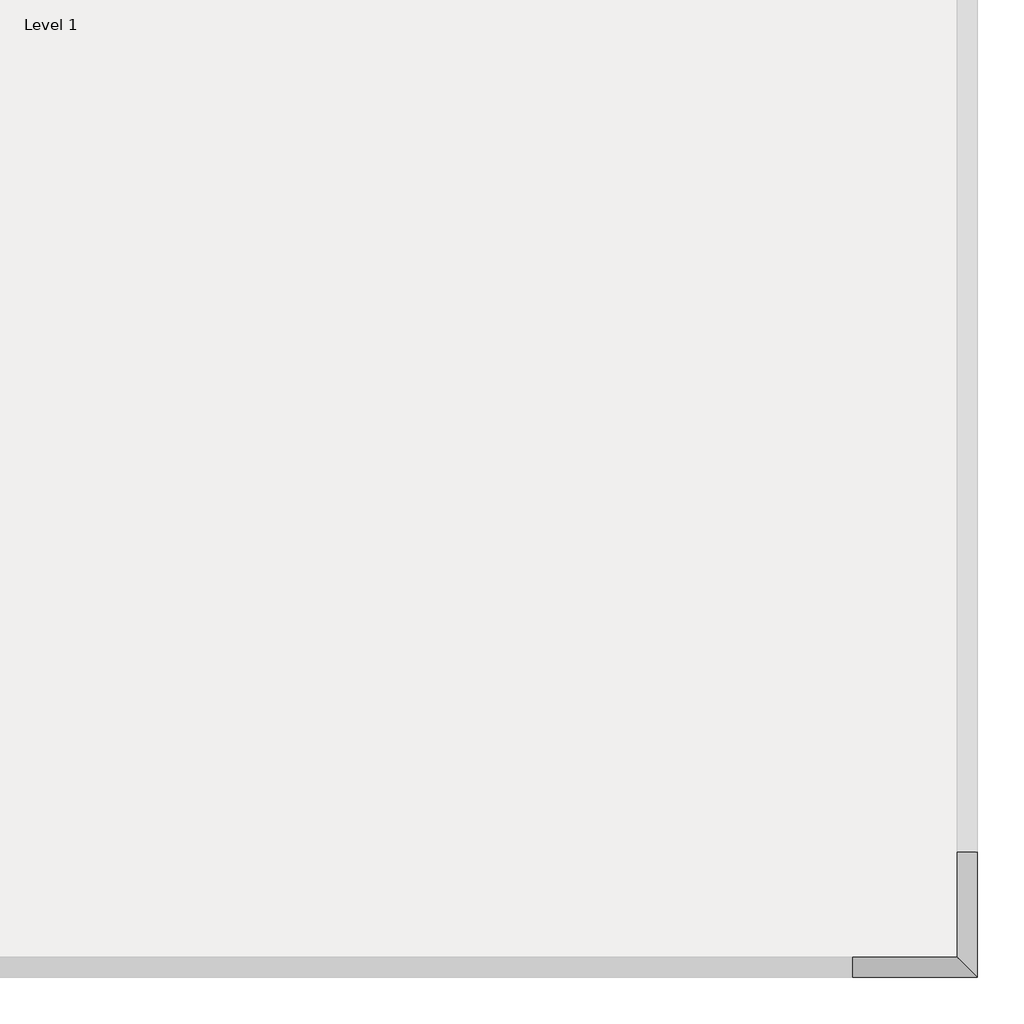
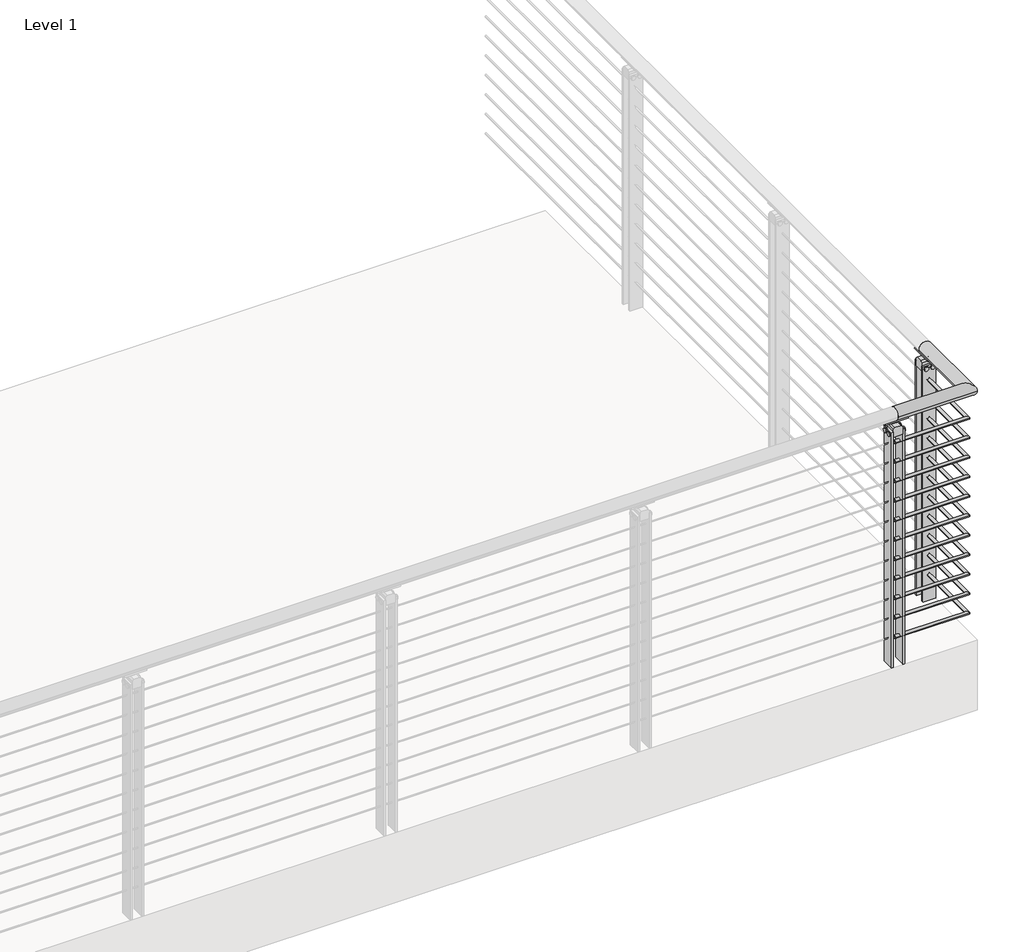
# One storey, part 18 of 36: 1 railing.
"""IFC4 building model written with IfcOpenShell, lengths in millimetres."""

from ifc_helpers import new_model, si_unit, point, frame, frame_2d, origin, origin_with_axes, place, context, project, spatial, polyline, circle_curve, ellipse_curve, trimmed, segment, composite_curve, outline, extrude, element, save
from ifc_brep_helpers import plane_surface, cylinder_surface, revolved_surface, advanced_brep

model = new_model("IFC4")

# Units and contexts
model_context = context("Model", 3, world=origin())
ifc_project = project(units=[si_unit("LENGTHUNIT", "METRE", prefix="MILLI")], contexts=[model_context])

# Site, building, storey
site = spatial("IfcSite", under=ifc_project)
building = spatial("IfcBuilding", under=site)
storey = spatial("IfcBuildingStorey", under=building, Name="Level 1", Elevation=0.0)

# Railing
placement = place(None, origin())
element("IfcRailing", 1, ObjectType="VIVA-BLADE-Cable-Weld Mount-Corner", at=placement, inside=storey, context=model_context, shape_type="SolidModel", body=[
    advanced_brep(
    [(45029.2855247, -57184.4334719, 1054.1), (45029.2855247, -57133.6334719, 1054.1), (45346.7855247, -57184.4334719, 1054.1), (45295.9855247, -57133.6334719, 1054.1), (45346.7855247, -56866.9334719, 1054.1), (45295.9855247, -56866.9334719, 1054.1)],
    [
        (0, 1, circle_curve(frame((45029.2855247, -57159.0334719, 1054.1), z_axis=(-1.0, 0.0, 0.0), x_axis=(0.0, 1.0, 0.0)), 25.4)),
        (1, 0, circle_curve(frame((45029.2855247, -57159.0334719, 1054.1), z_axis=(-1.0, 0.0, 0.0), x_axis=(0.0, 1.0, 0.0)), 25.4)),
        (0, 2),
        (2, 3, ellipse_curve(frame((45321.3855247, -57159.0334719, 1054.1), z_axis=(-0.7071067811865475, -0.7071067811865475, 0.0), x_axis=(-0.7071067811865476, 0.7071067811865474, 0.0)), 35.9210245, 25.4)),
        (3, 1),
        (3, 2, ellipse_curve(frame((45321.3855247, -57159.0334719, 1054.1), z_axis=(-0.7071067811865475, -0.7071067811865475, 0.0), x_axis=(-0.7071067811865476, 0.7071067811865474, 0.0)), 35.9210245, 25.4)),
        (4, 5, circle_curve(frame((45321.3855247, -56866.9334719, 1054.1), z_axis=(0.0, 1.0, 0.0), x_axis=(-1.0, 0.0, 0.0)), 25.4)),
        (5, 4, circle_curve(frame((45321.3855247, -56866.9334719, 1054.1), z_axis=(0.0, 1.0, 0.0), x_axis=(-1.0, 0.0, 0.0)), 25.4)),
        (2, 4),
        (5, 3),
    ],
    [
        plane_surface(frame((45029.2855247, -57159.0334719, 1079.5), z_axis=(-1.0, 0.0, 0.0), x_axis=(0.0, 1.0, 0.0))),
        cylinder_surface(frame((45029.2855247, -57159.0334719, 1054.1), z_axis=(-1.0, 0.0, 0.0), x_axis=(0.0, 1.0, 0.0)), 25.4),
        plane_surface(frame((45321.3855247, -56866.9334719, 1079.5), z_axis=(0.0, 1.0, 0.0), x_axis=(0.0, 0.0, 1.0))),
        cylinder_surface(frame((45321.3855247, -57159.0334719, 1054.1), z_axis=(0.0, -1.0, 0.0), x_axis=(-1.0, 0.0, 0.0)), 25.4),
    ],
    [
        (0, [[1, 2]]),
        (1, [[-1, 3, 4, 5]]),
        (1, [[-2, -5, 6, -3]]),
        (2, [[7, 8]]),
        (3, [[-4, 9, -8, 10]]),
        (3, [[-6, -10, -7, -9]]),
    ],
),
    advanced_brep(
    [(45029.2855247, -57152.6834719, 933.45), (45029.2855247, -57165.3834719, 933.45), (45315.0355247, -57152.6834719, 933.45), (45327.7355247, -57165.3834719, 933.45), (45315.0355247, -56866.9334719, 933.45), (45327.7355247, -56866.9334719, 933.45)],
    [
        (0, 1, circle_curve(frame((45029.2855247, -57159.0334719, 933.45), z_axis=(-1.0, 0.0, 0.0), x_axis=(0.0, -1.0, 0.0)), 6.35)),
        (1, 0, circle_curve(frame((45029.2855247, -57159.0334719, 933.45), z_axis=(-1.0, 0.0, 0.0), x_axis=(0.0, -1.0, 0.0)), 6.35)),
        (0, 2),
        (2, 3, ellipse_curve(frame((45321.3855247, -57159.0334719, 933.45), z_axis=(-0.7071067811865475, -0.7071067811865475, 0.0), x_axis=(-0.7071067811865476, 0.7071067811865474, 0.0)), 8.9802561, 6.35)),
        (3, 1),
        (3, 2, ellipse_curve(frame((45321.3855247, -57159.0334719, 933.45), z_axis=(-0.7071067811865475, -0.7071067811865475, 0.0), x_axis=(-0.7071067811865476, 0.7071067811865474, 0.0)), 8.9802561, 6.35)),
        (4, 5, circle_curve(frame((45321.3855247, -56866.9334719, 933.45), z_axis=(0.0, 1.0, 0.0), x_axis=(1.0, 0.0, 0.0)), 6.35)),
        (5, 4, circle_curve(frame((45321.3855247, -56866.9334719, 933.45), z_axis=(0.0, 1.0, 0.0), x_axis=(1.0, 0.0, 0.0)), 6.35)),
        (2, 4),
        (5, 3),
    ],
    [
        plane_surface(frame((45029.2855247, -57159.0334719, 939.8), z_axis=(-1.0, 0.0, 0.0), x_axis=(0.0, 1.0, 0.0))),
        cylinder_surface(frame((45029.2855247, -57159.0334719, 933.45), z_axis=(-1.0, 0.0, 0.0), x_axis=(0.0, -1.0, 0.0)), 6.35),
        plane_surface(frame((45321.3855247, -56866.9334719, 939.8), z_axis=(0.0, 1.0, 0.0), x_axis=(0.0, 0.0, 1.0))),
        cylinder_surface(frame((45321.3855247, -57159.0334719, 933.45), z_axis=(0.0, -1.0, 0.0), x_axis=(1.0, 0.0, 0.0)), 6.35),
    ],
    [
        (0, [[1, 2]]),
        (1, [[-1, 3, 4, 5]]),
        (1, [[-2, -5, 6, -3]]),
        (2, [[7, 8]]),
        (3, [[-4, 9, -8, 10]]),
        (3, [[-6, -10, -7, -9]]),
    ],
),
    advanced_brep(
    [(45029.2855247, -57152.6834719, 850.9), (45029.2855247, -57165.3834719, 850.9), (45315.0355247, -57152.6834719, 850.9), (45327.7355247, -57165.3834719, 850.9), (45315.0355247, -56866.9334719, 850.9), (45327.7355247, -56866.9334719, 850.9)],
    [
        (0, 1, circle_curve(frame((45029.2855247, -57159.0334719, 850.9), z_axis=(-1.0, 0.0, 0.0), x_axis=(0.0, -1.0, 0.0)), 6.35)),
        (1, 0, circle_curve(frame((45029.2855247, -57159.0334719, 850.9), z_axis=(-1.0, 0.0, 0.0), x_axis=(0.0, -1.0, 0.0)), 6.35)),
        (0, 2),
        (2, 3, ellipse_curve(frame((45321.3855247, -57159.0334719, 850.9), z_axis=(-0.7071067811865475, -0.7071067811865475, 0.0), x_axis=(-0.7071067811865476, 0.7071067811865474, 0.0)), 8.9802561, 6.35)),
        (3, 1),
        (3, 2, ellipse_curve(frame((45321.3855247, -57159.0334719, 850.9), z_axis=(-0.7071067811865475, -0.7071067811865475, 0.0), x_axis=(-0.7071067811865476, 0.7071067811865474, 0.0)), 8.9802561, 6.35)),
        (4, 5, circle_curve(frame((45321.3855247, -56866.9334719, 850.9), z_axis=(0.0, 1.0, 0.0), x_axis=(1.0, 0.0, 0.0)), 6.35)),
        (5, 4, circle_curve(frame((45321.3855247, -56866.9334719, 850.9), z_axis=(0.0, 1.0, 0.0), x_axis=(1.0, 0.0, 0.0)), 6.35)),
        (2, 4),
        (5, 3),
    ],
    [
        plane_surface(frame((45029.2855247, -57159.0334719, 857.25), z_axis=(-1.0, 0.0, 0.0), x_axis=(0.0, 1.0, 0.0))),
        cylinder_surface(frame((45029.2855247, -57159.0334719, 850.9), z_axis=(-1.0, 0.0, 0.0), x_axis=(0.0, -1.0, 0.0)), 6.35),
        plane_surface(frame((45321.3855247, -56866.9334719, 857.25), z_axis=(0.0, 1.0, 0.0), x_axis=(0.0, 0.0, 1.0))),
        cylinder_surface(frame((45321.3855247, -57159.0334719, 850.9), z_axis=(0.0, -1.0, 0.0), x_axis=(1.0, 0.0, 0.0)), 6.35),
    ],
    [
        (0, [[1, 2]]),
        (1, [[-1, 3, 4, 5]]),
        (1, [[-2, -5, 6, -3]]),
        (2, [[7, 8]]),
        (3, [[-4, 9, -8, 10]]),
        (3, [[-6, -10, -7, -9]]),
    ],
),
    advanced_brep(
    [(45029.2855247, -57152.6834719, 768.35), (45029.2855247, -57165.3834719, 768.35), (45315.0355247, -57152.6834719, 768.35), (45327.7355247, -57165.3834719, 768.35), (45315.0355247, -56866.9334719, 768.35), (45327.7355247, -56866.9334719, 768.35)],
    [
        (0, 1, circle_curve(frame((45029.2855247, -57159.0334719, 768.35), z_axis=(-1.0, 0.0, 0.0), x_axis=(0.0, -1.0, 0.0)), 6.35)),
        (1, 0, circle_curve(frame((45029.2855247, -57159.0334719, 768.35), z_axis=(-1.0, 0.0, 0.0), x_axis=(0.0, -1.0, 0.0)), 6.35)),
        (0, 2),
        (2, 3, ellipse_curve(frame((45321.3855247, -57159.0334719, 768.35), z_axis=(-0.7071067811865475, -0.7071067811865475, 0.0), x_axis=(-0.7071067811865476, 0.7071067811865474, 0.0)), 8.9802561, 6.35)),
        (3, 1),
        (3, 2, ellipse_curve(frame((45321.3855247, -57159.0334719, 768.35), z_axis=(-0.7071067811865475, -0.7071067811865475, 0.0), x_axis=(-0.7071067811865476, 0.7071067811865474, 0.0)), 8.9802561, 6.35)),
        (4, 5, circle_curve(frame((45321.3855247, -56866.9334719, 768.35), z_axis=(0.0, 1.0, 0.0), x_axis=(1.0, 0.0, 0.0)), 6.35)),
        (5, 4, circle_curve(frame((45321.3855247, -56866.9334719, 768.35), z_axis=(0.0, 1.0, 0.0), x_axis=(1.0, 0.0, 0.0)), 6.35)),
        (2, 4),
        (5, 3),
    ],
    [
        plane_surface(frame((45029.2855247, -57159.0334719, 774.7), z_axis=(-1.0, 0.0, 0.0), x_axis=(0.0, 1.0, 0.0))),
        cylinder_surface(frame((45029.2855247, -57159.0334719, 768.35), z_axis=(-1.0, 0.0, 0.0), x_axis=(0.0, -1.0, 0.0)), 6.35),
        plane_surface(frame((45321.3855247, -56866.9334719, 774.7), z_axis=(0.0, 1.0, 0.0), x_axis=(0.0, 0.0, 1.0))),
        cylinder_surface(frame((45321.3855247, -57159.0334719, 768.35), z_axis=(0.0, -1.0, 0.0), x_axis=(1.0, 0.0, 0.0)), 6.35),
    ],
    [
        (0, [[1, 2]]),
        (1, [[-1, 3, 4, 5]]),
        (1, [[-2, -5, 6, -3]]),
        (2, [[7, 8]]),
        (3, [[-4, 9, -8, 10]]),
        (3, [[-6, -10, -7, -9]]),
    ],
),
    advanced_brep(
    [(45029.2855247, -57152.6834719, 685.8), (45029.2855247, -57165.3834719, 685.8), (45315.0355247, -57152.6834719, 685.8), (45327.7355247, -57165.3834719, 685.8), (45315.0355247, -56866.9334719, 685.8), (45327.7355247, -56866.9334719, 685.8)],
    [
        (0, 1, circle_curve(frame((45029.2855247, -57159.0334719, 685.8), z_axis=(-1.0, 0.0, 0.0), x_axis=(0.0, -1.0, 0.0)), 6.35)),
        (1, 0, circle_curve(frame((45029.2855247, -57159.0334719, 685.8), z_axis=(-1.0, 0.0, 0.0), x_axis=(0.0, -1.0, 0.0)), 6.35)),
        (0, 2),
        (2, 3, ellipse_curve(frame((45321.3855247, -57159.0334719, 685.8), z_axis=(-0.7071067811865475, -0.7071067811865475, 0.0), x_axis=(-0.7071067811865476, 0.7071067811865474, 0.0)), 8.9802561, 6.35)),
        (3, 1),
        (3, 2, ellipse_curve(frame((45321.3855247, -57159.0334719, 685.8), z_axis=(-0.7071067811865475, -0.7071067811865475, 0.0), x_axis=(-0.7071067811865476, 0.7071067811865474, 0.0)), 8.9802561, 6.35)),
        (4, 5, circle_curve(frame((45321.3855247, -56866.9334719, 685.8), z_axis=(0.0, 1.0, 0.0), x_axis=(1.0, 0.0, 0.0)), 6.35)),
        (5, 4, circle_curve(frame((45321.3855247, -56866.9334719, 685.8), z_axis=(0.0, 1.0, 0.0), x_axis=(1.0, 0.0, 0.0)), 6.35)),
        (2, 4),
        (5, 3),
    ],
    [
        plane_surface(frame((45029.2855247, -57159.0334719, 692.15), z_axis=(-1.0, 0.0, 0.0), x_axis=(0.0, 1.0, 0.0))),
        cylinder_surface(frame((45029.2855247, -57159.0334719, 685.8), z_axis=(-1.0, 0.0, 0.0), x_axis=(0.0, -1.0, 0.0)), 6.35),
        plane_surface(frame((45321.3855247, -56866.9334719, 692.15), z_axis=(0.0, 1.0, 0.0), x_axis=(0.0, 0.0, 1.0))),
        cylinder_surface(frame((45321.3855247, -57159.0334719, 685.8), z_axis=(0.0, -1.0, 0.0), x_axis=(1.0, 0.0, 0.0)), 6.35),
    ],
    [
        (0, [[1, 2]]),
        (1, [[-1, 3, 4, 5]]),
        (1, [[-2, -5, 6, -3]]),
        (2, [[7, 8]]),
        (3, [[-4, 9, -8, 10]]),
        (3, [[-6, -10, -7, -9]]),
    ],
),
    advanced_brep(
    [(45029.2855247, -57152.6834719, 603.25), (45029.2855247, -57165.3834719, 603.25), (45315.0355247, -57152.6834719, 603.25), (45327.7355247, -57165.3834719, 603.25), (45315.0355247, -56866.9334719, 603.25), (45327.7355247, -56866.9334719, 603.25)],
    [
        (0, 1, circle_curve(frame((45029.2855247, -57159.0334719, 603.25), z_axis=(-1.0, 0.0, 0.0), x_axis=(0.0, -1.0, 0.0)), 6.35)),
        (1, 0, circle_curve(frame((45029.2855247, -57159.0334719, 603.25), z_axis=(-1.0, 0.0, 0.0), x_axis=(0.0, -1.0, 0.0)), 6.35)),
        (0, 2),
        (2, 3, ellipse_curve(frame((45321.3855247, -57159.0334719, 603.25), z_axis=(-0.7071067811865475, -0.7071067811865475, 0.0), x_axis=(-0.7071067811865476, 0.7071067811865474, 0.0)), 8.9802561, 6.35)),
        (3, 1),
        (3, 2, ellipse_curve(frame((45321.3855247, -57159.0334719, 603.25), z_axis=(-0.7071067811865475, -0.7071067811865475, 0.0), x_axis=(-0.7071067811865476, 0.7071067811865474, 0.0)), 8.9802561, 6.35)),
        (4, 5, circle_curve(frame((45321.3855247, -56866.9334719, 603.25), z_axis=(0.0, 1.0, 0.0), x_axis=(1.0, 0.0, 0.0)), 6.35)),
        (5, 4, circle_curve(frame((45321.3855247, -56866.9334719, 603.25), z_axis=(0.0, 1.0, 0.0), x_axis=(1.0, 0.0, 0.0)), 6.35)),
        (2, 4),
        (5, 3),
    ],
    [
        plane_surface(frame((45029.2855247, -57159.0334719, 609.6), z_axis=(-1.0, 0.0, 0.0), x_axis=(0.0, 1.0, 0.0))),
        cylinder_surface(frame((45029.2855247, -57159.0334719, 603.25), z_axis=(-1.0, 0.0, 0.0), x_axis=(0.0, -1.0, 0.0)), 6.35),
        plane_surface(frame((45321.3855247, -56866.9334719, 609.6), z_axis=(0.0, 1.0, 0.0), x_axis=(0.0, 0.0, 1.0))),
        cylinder_surface(frame((45321.3855247, -57159.0334719, 603.25), z_axis=(0.0, -1.0, 0.0), x_axis=(1.0, 0.0, 0.0)), 6.35),
    ],
    [
        (0, [[1, 2]]),
        (1, [[-1, 3, 4, 5]]),
        (1, [[-2, -5, 6, -3]]),
        (2, [[7, 8]]),
        (3, [[-4, 9, -8, 10]]),
        (3, [[-6, -10, -7, -9]]),
    ],
),
    advanced_brep(
    [(45029.2855247, -57152.6834719, 520.7), (45029.2855247, -57165.3834719, 520.7), (45315.0355247, -57152.6834719, 520.7), (45327.7355247, -57165.3834719, 520.7), (45315.0355247, -56866.9334719, 520.7), (45327.7355247, -56866.9334719, 520.7)],
    [
        (0, 1, circle_curve(frame((45029.2855247, -57159.0334719, 520.7), z_axis=(-1.0, 0.0, 0.0), x_axis=(0.0, -1.0, 0.0)), 6.35)),
        (1, 0, circle_curve(frame((45029.2855247, -57159.0334719, 520.7), z_axis=(-1.0, 0.0, 0.0), x_axis=(0.0, -1.0, 0.0)), 6.35)),
        (0, 2),
        (2, 3, ellipse_curve(frame((45321.3855247, -57159.0334719, 520.7), z_axis=(-0.7071067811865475, -0.7071067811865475, 0.0), x_axis=(-0.7071067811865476, 0.7071067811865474, 0.0)), 8.9802561, 6.35)),
        (3, 1),
        (3, 2, ellipse_curve(frame((45321.3855247, -57159.0334719, 520.7), z_axis=(-0.7071067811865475, -0.7071067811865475, 0.0), x_axis=(-0.7071067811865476, 0.7071067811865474, 0.0)), 8.9802561, 6.35)),
        (4, 5, circle_curve(frame((45321.3855247, -56866.9334719, 520.7), z_axis=(0.0, 1.0, 0.0), x_axis=(1.0, 0.0, 0.0)), 6.35)),
        (5, 4, circle_curve(frame((45321.3855247, -56866.9334719, 520.7), z_axis=(0.0, 1.0, 0.0), x_axis=(1.0, 0.0, 0.0)), 6.35)),
        (2, 4),
        (5, 3),
    ],
    [
        plane_surface(frame((45029.2855247, -57159.0334719, 527.05), z_axis=(-1.0, 0.0, 0.0), x_axis=(0.0, 1.0, 0.0))),
        cylinder_surface(frame((45029.2855247, -57159.0334719, 520.7), z_axis=(-1.0, 0.0, 0.0), x_axis=(0.0, -1.0, 0.0)), 6.35),
        plane_surface(frame((45321.3855247, -56866.9334719, 527.05), z_axis=(0.0, 1.0, 0.0), x_axis=(0.0, 0.0, 1.0))),
        cylinder_surface(frame((45321.3855247, -57159.0334719, 520.7), z_axis=(0.0, -1.0, 0.0), x_axis=(1.0, 0.0, 0.0)), 6.35),
    ],
    [
        (0, [[1, 2]]),
        (1, [[-1, 3, 4, 5]]),
        (1, [[-2, -5, 6, -3]]),
        (2, [[7, 8]]),
        (3, [[-4, 9, -8, 10]]),
        (3, [[-6, -10, -7, -9]]),
    ],
),
    advanced_brep(
    [(45029.2855247, -57152.6834719, 438.15), (45029.2855247, -57165.3834719, 438.15), (45315.0355247, -57152.6834719, 438.15), (45327.7355247, -57165.3834719, 438.15), (45315.0355247, -56866.9334719, 438.15), (45327.7355247, -56866.9334719, 438.15)],
    [
        (0, 1, circle_curve(frame((45029.2855247, -57159.0334719, 438.15), z_axis=(-1.0, 0.0, 0.0), x_axis=(0.0, -1.0, 0.0)), 6.35)),
        (1, 0, circle_curve(frame((45029.2855247, -57159.0334719, 438.15), z_axis=(-1.0, 0.0, 0.0), x_axis=(0.0, -1.0, 0.0)), 6.35)),
        (0, 2),
        (2, 3, ellipse_curve(frame((45321.3855247, -57159.0334719, 438.15), z_axis=(-0.7071067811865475, -0.7071067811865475, 0.0), x_axis=(-0.7071067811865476, 0.7071067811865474, 0.0)), 8.9802561, 6.35)),
        (3, 1),
        (3, 2, ellipse_curve(frame((45321.3855247, -57159.0334719, 438.15), z_axis=(-0.7071067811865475, -0.7071067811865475, 0.0), x_axis=(-0.7071067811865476, 0.7071067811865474, 0.0)), 8.9802561, 6.35)),
        (4, 5, circle_curve(frame((45321.3855247, -56866.9334719, 438.15), z_axis=(0.0, 1.0, 0.0), x_axis=(1.0, 0.0, 0.0)), 6.35)),
        (5, 4, circle_curve(frame((45321.3855247, -56866.9334719, 438.15), z_axis=(0.0, 1.0, 0.0), x_axis=(1.0, 0.0, 0.0)), 6.35)),
        (2, 4),
        (5, 3),
    ],
    [
        plane_surface(frame((45029.2855247, -57159.0334719, 444.5), z_axis=(-1.0, 0.0, 0.0), x_axis=(0.0, 1.0, 0.0))),
        cylinder_surface(frame((45029.2855247, -57159.0334719, 438.15), z_axis=(-1.0, 0.0, 0.0), x_axis=(0.0, -1.0, 0.0)), 6.35),
        plane_surface(frame((45321.3855247, -56866.9334719, 444.5), z_axis=(0.0, 1.0, 0.0), x_axis=(0.0, 0.0, 1.0))),
        cylinder_surface(frame((45321.3855247, -57159.0334719, 438.15), z_axis=(0.0, -1.0, 0.0), x_axis=(1.0, 0.0, 0.0)), 6.35),
    ],
    [
        (0, [[1, 2]]),
        (1, [[-1, 3, 4, 5]]),
        (1, [[-2, -5, 6, -3]]),
        (2, [[7, 8]]),
        (3, [[-4, 9, -8, 10]]),
        (3, [[-6, -10, -7, -9]]),
    ],
),
    advanced_brep(
    [(45029.2855247, -57152.6834719, 355.6), (45029.2855247, -57165.3834719, 355.6), (45315.0355247, -57152.6834719, 355.6), (45327.7355247, -57165.3834719, 355.6), (45315.0355247, -56866.9334719, 355.6), (45327.7355247, -56866.9334719, 355.6)],
    [
        (0, 1, circle_curve(frame((45029.2855247, -57159.0334719, 355.6), z_axis=(-1.0, 0.0, 0.0), x_axis=(0.0, -1.0, 0.0)), 6.35)),
        (1, 0, circle_curve(frame((45029.2855247, -57159.0334719, 355.6), z_axis=(-1.0, 0.0, 0.0), x_axis=(0.0, -1.0, 0.0)), 6.35)),
        (0, 2),
        (2, 3, ellipse_curve(frame((45321.3855247, -57159.0334719, 355.6), z_axis=(-0.7071067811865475, -0.7071067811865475, 0.0), x_axis=(-0.7071067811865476, 0.7071067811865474, 0.0)), 8.9802561, 6.35)),
        (3, 1),
        (3, 2, ellipse_curve(frame((45321.3855247, -57159.0334719, 355.6), z_axis=(-0.7071067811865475, -0.7071067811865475, 0.0), x_axis=(-0.7071067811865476, 0.7071067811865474, 0.0)), 8.9802561, 6.35)),
        (4, 5, circle_curve(frame((45321.3855247, -56866.9334719, 355.6), z_axis=(0.0, 1.0, 0.0), x_axis=(1.0, 0.0, 0.0)), 6.35)),
        (5, 4, circle_curve(frame((45321.3855247, -56866.9334719, 355.6), z_axis=(0.0, 1.0, 0.0), x_axis=(1.0, 0.0, 0.0)), 6.35)),
        (2, 4),
        (5, 3),
    ],
    [
        plane_surface(frame((45029.2855247, -57159.0334719, 361.95), z_axis=(-1.0, 0.0, 0.0), x_axis=(0.0, 1.0, 0.0))),
        cylinder_surface(frame((45029.2855247, -57159.0334719, 355.6), z_axis=(-1.0, 0.0, 0.0), x_axis=(0.0, -1.0, 0.0)), 6.35),
        plane_surface(frame((45321.3855247, -56866.9334719, 361.95), z_axis=(0.0, 1.0, 0.0), x_axis=(0.0, 0.0, 1.0))),
        cylinder_surface(frame((45321.3855247, -57159.0334719, 355.6), z_axis=(0.0, -1.0, 0.0), x_axis=(1.0, 0.0, 0.0)), 6.35),
    ],
    [
        (0, [[1, 2]]),
        (1, [[-1, 3, 4, 5]]),
        (1, [[-2, -5, 6, -3]]),
        (2, [[7, 8]]),
        (3, [[-4, 9, -8, 10]]),
        (3, [[-6, -10, -7, -9]]),
    ],
),
    advanced_brep(
    [(45029.2855247, -57152.6834719, 273.05), (45029.2855247, -57165.3834719, 273.05), (45315.0355247, -57152.6834719, 273.05), (45327.7355247, -57165.3834719, 273.05), (45315.0355247, -56866.9334719, 273.05), (45327.7355247, -56866.9334719, 273.05)],
    [
        (0, 1, circle_curve(frame((45029.2855247, -57159.0334719, 273.05), z_axis=(-1.0, 0.0, 0.0), x_axis=(0.0, -1.0, 0.0)), 6.35)),
        (1, 0, circle_curve(frame((45029.2855247, -57159.0334719, 273.05), z_axis=(-1.0, 0.0, 0.0), x_axis=(0.0, -1.0, 0.0)), 6.35)),
        (0, 2),
        (2, 3, ellipse_curve(frame((45321.3855247, -57159.0334719, 273.05), z_axis=(-0.7071067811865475, -0.7071067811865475, 0.0), x_axis=(-0.7071067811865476, 0.7071067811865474, 0.0)), 8.9802561, 6.35)),
        (3, 1),
        (3, 2, ellipse_curve(frame((45321.3855247, -57159.0334719, 273.05), z_axis=(-0.7071067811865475, -0.7071067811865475, 0.0), x_axis=(-0.7071067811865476, 0.7071067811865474, 0.0)), 8.9802561, 6.35)),
        (4, 5, circle_curve(frame((45321.3855247, -56866.9334719, 273.05), z_axis=(0.0, 1.0, 0.0), x_axis=(1.0, 0.0, 0.0)), 6.35)),
        (5, 4, circle_curve(frame((45321.3855247, -56866.9334719, 273.05), z_axis=(0.0, 1.0, 0.0), x_axis=(1.0, 0.0, 0.0)), 6.35)),
        (2, 4),
        (5, 3),
    ],
    [
        plane_surface(frame((45029.2855247, -57159.0334719, 279.4), z_axis=(-1.0, 0.0, 0.0), x_axis=(0.0, 1.0, 0.0))),
        cylinder_surface(frame((45029.2855247, -57159.0334719, 273.05), z_axis=(-1.0, 0.0, 0.0), x_axis=(0.0, -1.0, 0.0)), 6.35),
        plane_surface(frame((45321.3855247, -56866.9334719, 279.4), z_axis=(0.0, 1.0, 0.0), x_axis=(0.0, 0.0, 1.0))),
        cylinder_surface(frame((45321.3855247, -57159.0334719, 273.05), z_axis=(0.0, -1.0, 0.0), x_axis=(1.0, 0.0, 0.0)), 6.35),
    ],
    [
        (0, [[1, 2]]),
        (1, [[-1, 3, 4, 5]]),
        (1, [[-2, -5, 6, -3]]),
        (2, [[7, 8]]),
        (3, [[-4, 9, -8, 10]]),
        (3, [[-6, -10, -7, -9]]),
    ],
),
    advanced_brep(
    [(45029.2855247, -57152.6834719, 190.5), (45029.2855247, -57165.3834719, 190.5), (45315.0355247, -57152.6834719, 190.5), (45327.7355247, -57165.3834719, 190.5), (45315.0355247, -56866.9334719, 190.5), (45327.7355247, -56866.9334719, 190.5)],
    [
        (0, 1, circle_curve(frame((45029.2855247, -57159.0334719, 190.5), z_axis=(-1.0, 0.0, 0.0), x_axis=(0.0, -1.0, 0.0)), 6.35)),
        (1, 0, circle_curve(frame((45029.2855247, -57159.0334719, 190.5), z_axis=(-1.0, 0.0, 0.0), x_axis=(0.0, -1.0, 0.0)), 6.35)),
        (0, 2),
        (2, 3, ellipse_curve(frame((45321.3855247, -57159.0334719, 190.5), z_axis=(-0.7071067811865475, -0.7071067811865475, 0.0), x_axis=(-0.7071067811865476, 0.7071067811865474, 0.0)), 8.9802561, 6.35)),
        (3, 1),
        (3, 2, ellipse_curve(frame((45321.3855247, -57159.0334719, 190.5), z_axis=(-0.7071067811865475, -0.7071067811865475, 0.0), x_axis=(-0.7071067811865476, 0.7071067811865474, 0.0)), 8.9802561, 6.35)),
        (4, 5, circle_curve(frame((45321.3855247, -56866.9334719, 190.5), z_axis=(0.0, 1.0, 0.0), x_axis=(1.0, 0.0, 0.0)), 6.35)),
        (5, 4, circle_curve(frame((45321.3855247, -56866.9334719, 190.5), z_axis=(0.0, 1.0, 0.0), x_axis=(1.0, 0.0, 0.0)), 6.35)),
        (2, 4),
        (5, 3),
    ],
    [
        plane_surface(frame((45029.2855247, -57159.0334719, 196.85), z_axis=(-1.0, 0.0, 0.0), x_axis=(0.0, 1.0, 0.0))),
        cylinder_surface(frame((45029.2855247, -57159.0334719, 190.5), z_axis=(-1.0, 0.0, 0.0), x_axis=(0.0, -1.0, 0.0)), 6.35),
        plane_surface(frame((45321.3855247, -56866.9334719, 196.85), z_axis=(0.0, 1.0, 0.0), x_axis=(0.0, 0.0, 1.0))),
        cylinder_surface(frame((45321.3855247, -57159.0334719, 190.5), z_axis=(0.0, -1.0, 0.0), x_axis=(1.0, 0.0, 0.0)), 6.35),
    ],
    [
        (0, [[1, 2]]),
        (1, [[-1, 3, 4, 5]]),
        (1, [[-2, -5, 6, -3]]),
        (2, [[7, 8]]),
        (3, [[-4, 9, -8, 10]]),
        (3, [[-6, -10, -7, -9]]),
    ],
),
    advanced_brep(
    [(45029.2855247, -57152.6834719, 107.95), (45029.2855247, -57165.3834719, 107.95), (45315.0355247, -57152.6834719, 107.95), (45327.7355247, -57165.3834719, 107.95), (45315.0355247, -56866.9334719, 107.95), (45327.7355247, -56866.9334719, 107.95)],
    [
        (0, 1, circle_curve(frame((45029.2855247, -57159.0334719, 107.95), z_axis=(-1.0, 0.0, 0.0), x_axis=(0.0, -1.0, 0.0)), 6.35)),
        (1, 0, circle_curve(frame((45029.2855247, -57159.0334719, 107.95), z_axis=(-1.0, 0.0, 0.0), x_axis=(0.0, -1.0, 0.0)), 6.35)),
        (0, 2),
        (2, 3, ellipse_curve(frame((45321.3855247, -57159.0334719, 107.95), z_axis=(-0.7071067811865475, -0.7071067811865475, 0.0), x_axis=(-0.7071067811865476, 0.7071067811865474, 0.0)), 8.9802561, 6.35)),
        (3, 1),
        (3, 2, ellipse_curve(frame((45321.3855247, -57159.0334719, 107.95), z_axis=(-0.7071067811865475, -0.7071067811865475, 0.0), x_axis=(-0.7071067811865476, 0.7071067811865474, 0.0)), 8.9802561, 6.35)),
        (4, 5, circle_curve(frame((45321.3855247, -56866.9334719, 107.95), z_axis=(0.0, 1.0, 0.0), x_axis=(1.0, 0.0, 0.0)), 6.35)),
        (5, 4, circle_curve(frame((45321.3855247, -56866.9334719, 107.95), z_axis=(0.0, 1.0, 0.0), x_axis=(1.0, 0.0, 0.0)), 6.35)),
        (2, 4),
        (5, 3),
    ],
    [
        plane_surface(frame((45029.2855247, -57159.0334719, 114.3), z_axis=(-1.0, 0.0, 0.0), x_axis=(0.0, 1.0, 0.0))),
        cylinder_surface(frame((45029.2855247, -57159.0334719, 107.95), z_axis=(-1.0, 0.0, 0.0), x_axis=(0.0, -1.0, 0.0)), 6.35),
        plane_surface(frame((45321.3855247, -56866.9334719, 114.3), z_axis=(0.0, 1.0, 0.0), x_axis=(0.0, 0.0, 1.0))),
        cylinder_surface(frame((45321.3855247, -57159.0334719, 107.95), z_axis=(0.0, -1.0, 0.0), x_axis=(1.0, 0.0, 0.0)), 6.35),
    ],
    [
        (0, [[1, 2]]),
        (1, [[-1, 3, 4, 5]]),
        (1, [[-2, -5, 6, -3]]),
        (2, [[7, 8]]),
        (3, [[-4, 9, -8, 10]]),
        (3, [[-6, -10, -7, -9]]),
    ],
),
    advanced_brep(
    [(45308.6254011, -56821.6960719, 1032.0967655), (45333.4974656, -56821.6960719, 1031.9535285), (45336.3063959, -56821.6960719, 1027.1267745), (45304.7895037, -56821.6960719, 1027.707533), (45308.6254011, -56912.1708719, 1032.0967655), (45304.7895037, -56912.1708719, 1027.707533), (45336.4201893, -56912.1708719, 1027.1893964), (45333.5844377, -56912.1708719, 1032.0018447)],
    [
        (0, 1, circle_curve(frame((45321.189204, -56821.6960719, 1054.2115898), z_axis=(0.0, -1.0, 0.0), x_axis=(-1.0, 0.0, 0.0)), 25.4345159)),
        (1, 2, circle_curve(frame((45334.8290908, -56821.6960719, 1029.4993599), z_axis=(0.0, 1.0, 0.0), x_axis=(-1.0, 0.0, 0.0)), 2.7949225)),
        (2, 3, circle_curve(frame((45321.0557409, -56821.6960719, 1054.9742164), z_axis=(0.0, 1.0, 0.0), x_axis=(-1.0, 0.0, 0.0)), 31.75)),
        (3, 0, circle_curve(frame((45307.0778434, -56821.6960719, 1029.5784521), z_axis=(0.0, 1.0, 0.0), x_axis=(-1.0, 0.0, 0.0)), 2.9558141)),
        (4, 5, circle_curve(frame((45307.0778434, -56912.1708719, 1029.5784521), z_axis=(0.0, -1.0, 0.0), x_axis=(-1.0, 0.0, 0.0)), 2.9558141)),
        (5, 6, circle_curve(frame((45321.0557409, -56912.1708719, 1054.9742164), z_axis=(0.0, -1.0, 0.0), x_axis=(-1.0, 0.0, 0.0)), 31.75)),
        (6, 7, circle_curve(frame((45334.8290908, -56912.1708719, 1029.4993599), z_axis=(0.0, -1.0, 0.0), x_axis=(-1.0, 0.0, 0.0)), 2.7949225)),
        (7, 4, circle_curve(frame((45321.189204, -56912.1708719, 1054.2115898), z_axis=(0.0, 1.0, 0.0), x_axis=(-1.0, 0.0, 0.0)), 25.4345159)),
        (0, 4),
        (7, 1),
        (6, 2),
        (5, 3),
    ],
    [
        plane_surface(frame((45295.7546881, -56821.6960719, 1054.2115898), z_axis=(0.0, 1.0, 0.0), x_axis=(0.0, 0.0, -1.0))),
        plane_surface(frame((45295.7546881, -56912.1708719, 1054.2115898), z_axis=(0.0, -1.0, 0.0), x_axis=(0.0, 0.0, 1.0))),
        revolved_surface(polyline([(45295.7546881, -56912.1708719, 1054.2115898), (45295.7546881, -56821.6960719, 1054.2115898)]), (45321.189204, -56912.1708719, 1054.2115898), (0.0, -1.0, 0.0)),
        cylinder_surface(frame((45334.8290908, -56912.1708719, 1029.4993599), z_axis=(0.0, 1.0, 0.0), x_axis=(-1.0, 0.0, 0.0)), 2.7949225),
        cylinder_surface(frame((45321.0557409, -56912.1708719, 1054.9742164), z_axis=(0.0, 1.0, 0.0), x_axis=(-1.0, 0.0, 0.0)), 31.75),
        cylinder_surface(frame((45307.0778434, -56912.1708719, 1029.5784521), z_axis=(0.0, 1.0, 0.0), x_axis=(-1.0, 0.0, 0.0)), 2.9558141),
    ],
    [
        (0, [[1, 2, 3, 4]]),
        (1, [[5, 6, 7, 8]]),
        (2, [[-1, 9, -8, 10]]),
        (3, [[-2, -10, -7, 11]]),
        (4, [[-3, -11, -6, 12]]),
        (5, [[-4, -12, -5, -9]]),
    ],
),
    advanced_brep(
    [(45318.8455247, -56854.2334719, 1014.4125), (45318.8455247, -56879.6334719, 1014.4125), (45318.8455247, -56894.0013867, 1028.7804149), (45318.8455247, -56839.865557, 1028.7804149), (45323.9255247, -56854.2334719, 1014.4125), (45323.9255247, -56839.865557, 1028.7804149), (45323.9255247, -56894.0013867, 1028.7804149), (45323.9255247, -56879.6334719, 1014.4125)],
    [
        (0, 1),
        (1, 2, circle_curve(frame((45318.8455247, -56894.0013867, 1014.4125), z_axis=(1.0, 0.0, 0.0), x_axis=(0.0, -1.0, 0.0)), 14.3679149)),
        (2, 3),
        (3, 0, circle_curve(frame((45318.8455247, -56839.865557, 1014.4125), z_axis=(1.0, 0.0, 0.0), x_axis=(0.0, -1.0, 0.0)), 14.3679149)),
        (4, 5, circle_curve(frame((45323.9255247, -56839.865557, 1014.4125), z_axis=(-1.0, 0.0, 0.0), x_axis=(0.0, -1.0, 0.0)), 14.3679149)),
        (5, 6),
        (6, 7, circle_curve(frame((45323.9255247, -56894.0013867, 1014.4125), z_axis=(-1.0, 0.0, 0.0), x_axis=(0.0, -1.0, 0.0)), 14.3679149)),
        (7, 4),
        (0, 4),
        (7, 1),
        (6, 2),
        (5, 3),
    ],
    [
        plane_surface(frame((45318.8455247, -56879.6334719, 1014.4125), z_axis=(-1.0, 0.0, 0.0), x_axis=(0.0, -1.0, 0.0))),
        plane_surface(frame((45323.9255247, -56879.6334719, 1014.4125), z_axis=(1.0, 0.0, 0.0), x_axis=(0.0, 1.0, 0.0))),
        plane_surface(frame((45318.8455247, -56854.2334719, 1014.4125), z_axis=(0.0, 0.0, -1.0), x_axis=(1.0, 0.0, 0.0))),
        revolved_surface(polyline([(45323.9255247, -56908.3693016, 1014.4125), (45318.8455247, -56908.3693016, 1014.4125)]), (45323.9255247, -56894.0013867, 1014.4125), (1.0, 0.0, 0.0)),
        plane_surface(frame((45318.8455247, -56894.0013867, 1028.7804149), z_axis=(0.0, 0.0, 1.0), x_axis=(1.0, 0.0, 0.0))),
        revolved_surface(polyline([(45323.9255247, -56854.2334719, 1014.4125), (45318.8455247, -56854.2334719, 1014.4125)]), (45323.9255247, -56839.865557, 1014.4125), (1.0, 0.0, 0.0)),
    ],
    [
        (0, [[1, 2, 3, 4]]),
        (1, [[5, 6, 7, 8]]),
        (2, [[-1, 9, -8, 10]]),
        (3, [[-2, -10, -7, 11]]),
        (4, [[-3, -11, -6, 12]]),
        (5, [[-4, -12, -5, -9]]),
    ],
),
    extrude(outline(polyline([(45295.985728, -56894.0083075), (45295.985728, -56885.9834719), (45346.7880526, -56885.9834719), (45346.7880526, -56894.0083075), (45295.985728, -56894.0083075)])), origin_with_axes(), (0.0, 0.0, 1.0), 996.95),
    extrude(outline(composite_curve([segment(trimmed(circle_curve(frame_2d((986.0416929, 45334.0880016)), 8.89), [point((986.0416929, 45342.9780016))], [point((986.0416929, 45325.1980016))], False, "CARTESIAN"), True, "CONTINUOUS"), segment(trimmed(circle_curve(frame_2d((986.0416929, 45334.0880016)), 8.89), [point((986.0416929, 45325.1980016))], [point((986.0416929, 45342.9780016))], False, "CARTESIAN"), True, "CONTINUOUS")], self_intersect=False)), frame((0.0, -56898.6834719, 0.0), z_axis=(0.0, 1.0, 0.0), x_axis=(0.0, 0.0, 1.0)), (0.0, 0.0, 1.0), 63.4880631),
    extrude(outline(composite_curve([segment(trimmed(circle_curve(frame_2d((986.0416929, 45308.6881037)), 8.89), [point((986.0416929, 45317.5781037))], [point((986.0416929, 45299.7981037))], False, "CARTESIAN"), True, "CONTINUOUS"), segment(trimmed(circle_curve(frame_2d((986.0416929, 45308.6881037)), 8.89), [point((986.0416929, 45299.7981037))], [point((986.0416929, 45317.5781037))], False, "CARTESIAN"), True, "CONTINUOUS")], self_intersect=False)), frame((0.0, -56898.6834719, 0.0), z_axis=(0.0, 1.0, 0.0), x_axis=(0.0, 0.0, 1.0)), (0.0, 0.0, 1.0), 63.4880631),
    extrude(outline(polyline([(-56885.9834719, 974.7123), (-56885.9834719, 1008.0625), (-56879.6334719, 1014.4125), (-56854.2334719, 1014.4125), (-56847.8834719, 1008.0625), (-56847.8834719, 974.7123), (-56885.9834719, 974.7123)])), frame((45295.9855247, 0.0, 0.0), z_axis=(1.0, 0.0, 0.0), x_axis=(0.0, 1.0, 0.0)), (0.0, 0.0, 1.0), 50.8025279),
    extrude(outline(polyline([(45295.985728, -56847.8835099), (45295.985728, -56839.8825099), (45346.7880526, -56839.8825099), (45346.7880526, -56847.8835099), (45295.985728, -56847.8835099)])), origin_with_axes(), (0.0, 0.0, 1.0), 996.95),
    advanced_brep(
    [(45074.5229247, -57146.2733482, 1032.0967655), (45074.5229247, -57171.1454127, 1031.9535285), (45074.5229247, -57173.9543431, 1027.1267745), (45074.5229247, -57142.4374508, 1027.707533), (44984.0481247, -57146.2733482, 1032.0967655), (44984.0481247, -57142.4374508, 1027.707533), (44984.0481247, -57174.0681364, 1027.1893964), (44984.0481247, -57171.2323849, 1032.0018447)],
    [
        (0, 1, circle_curve(frame((45074.5229247, -57158.8371511, 1054.2115898), z_axis=(-1.0, 0.0, 0.0), x_axis=(0.0, 1.0, 0.0)), 25.4345159)),
        (1, 2, circle_curve(frame((45074.5229247, -57172.477038, 1029.4993599), z_axis=(1.0, 0.0, 0.0), x_axis=(0.0, 1.0, 0.0)), 2.7949225)),
        (2, 3, circle_curve(frame((45074.5229247, -57158.703688, 1054.9742164), z_axis=(1.0, 0.0, 0.0), x_axis=(0.0, 1.0, 0.0)), 31.75)),
        (3, 0, circle_curve(frame((45074.5229247, -57144.7257905, 1029.5784521), z_axis=(1.0, 0.0, 0.0), x_axis=(0.0, 1.0, 0.0)), 2.9558141)),
        (4, 5, circle_curve(frame((44984.0481247, -57144.7257905, 1029.5784521), z_axis=(-1.0, 0.0, 0.0), x_axis=(0.0, 1.0, 0.0)), 2.9558141)),
        (5, 6, circle_curve(frame((44984.0481247, -57158.703688, 1054.9742164), z_axis=(-1.0, 0.0, 0.0), x_axis=(0.0, 1.0, 0.0)), 31.75)),
        (6, 7, circle_curve(frame((44984.0481247, -57172.477038, 1029.4993599), z_axis=(-1.0, 0.0, 0.0), x_axis=(0.0, 1.0, 0.0)), 2.7949225)),
        (7, 4, circle_curve(frame((44984.0481247, -57158.8371511, 1054.2115898), z_axis=(1.0, 0.0, 0.0), x_axis=(0.0, 1.0, 0.0)), 25.4345159)),
        (0, 4),
        (7, 1),
        (6, 2),
        (5, 3),
    ],
    [
        plane_surface(frame((45074.5229247, -57133.4026353, 1054.2115898), z_axis=(1.0, 0.0, 0.0), x_axis=(0.0, 0.0, -1.0))),
        plane_surface(frame((44984.0481247, -57133.4026353, 1054.2115898), z_axis=(-1.0, 0.0, 0.0), x_axis=(0.0, 0.0, 1.0))),
        revolved_surface(polyline([(44984.0481247, -57133.4026352, 1054.2115898), (45074.5229247, -57133.4026352, 1054.2115898)]), (44984.0481247, -57158.8371511, 1054.2115898), (-1.0, 0.0, 0.0)),
        cylinder_surface(frame((44984.0481247, -57172.477038, 1029.4993599), z_axis=(1.0, 0.0, 0.0), x_axis=(0.0, 1.0, 0.0)), 2.7949225),
        cylinder_surface(frame((44984.0481247, -57158.703688, 1054.9742164), z_axis=(1.0, 0.0, 0.0), x_axis=(0.0, 1.0, 0.0)), 31.75),
        cylinder_surface(frame((44984.0481247, -57144.7257905, 1029.5784521), z_axis=(1.0, 0.0, 0.0), x_axis=(0.0, 1.0, 0.0)), 2.9558141),
    ],
    [
        (0, [[1, 2, 3, 4]]),
        (1, [[5, 6, 7, 8]]),
        (2, [[-1, 9, -8, 10]]),
        (3, [[-2, -10, -7, 11]]),
        (4, [[-3, -11, -6, 12]]),
        (5, [[-4, -12, -5, -9]]),
    ],
),
    advanced_brep(
    [(45041.9855247, -57156.4934719, 1014.4125), (45016.5855247, -57156.4934719, 1014.4125), (45002.2176098, -57156.4934719, 1028.7804149), (45056.3534396, -57156.4934719, 1028.7804149), (45041.9855247, -57161.5734719, 1014.4125), (45056.3534396, -57161.5734719, 1028.7804149), (45002.2176098, -57161.5734719, 1028.7804149), (45016.5855247, -57161.5734719, 1014.4125)],
    [
        (0, 1),
        (1, 2, circle_curve(frame((45002.2176098, -57156.4934719, 1014.4125), z_axis=(0.0, -1.0, 0.0), x_axis=(-1.0, 0.0, 0.0)), 14.3679149)),
        (2, 3),
        (3, 0, circle_curve(frame((45056.3534396, -57156.4934719, 1014.4125), z_axis=(0.0, -1.0, 0.0), x_axis=(-1.0, 0.0, 0.0)), 14.3679149)),
        (4, 5, circle_curve(frame((45056.3534396, -57161.5734719, 1014.4125), z_axis=(0.0, 1.0, 0.0), x_axis=(-1.0, 0.0, 0.0)), 14.3679149)),
        (5, 6),
        (6, 7, circle_curve(frame((45002.2176098, -57161.5734719, 1014.4125), z_axis=(0.0, 1.0, 0.0), x_axis=(-1.0, 0.0, 0.0)), 14.3679149)),
        (7, 4),
        (0, 4),
        (7, 1),
        (6, 2),
        (5, 3),
    ],
    [
        plane_surface(frame((45016.5855247, -57156.4934719, 1014.4125), z_axis=(0.0, 1.0, 0.0), x_axis=(-1.0, 0.0, 0.0))),
        plane_surface(frame((45016.5855247, -57161.5734719, 1014.4125), z_axis=(0.0, -1.0, 0.0), x_axis=(1.0, 0.0, 0.0))),
        plane_surface(frame((45041.9855247, -57156.4934719, 1014.4125), z_axis=(0.0, 0.0, -1.0), x_axis=(0.0, -1.0, 0.0))),
        revolved_surface(polyline([(44987.8496949, -57161.5734719, 1014.4125), (44987.8496949, -57156.4934719, 1014.4125)]), (45002.2176098, -57161.5734719, 1014.4125), (0.0, -1.0, 0.0)),
        plane_surface(frame((45002.2176098, -57156.4934719, 1028.7804149), z_axis=(0.0, 0.0, 1.0), x_axis=(0.0, -1.0, 0.0))),
        revolved_surface(polyline([(45041.9855247, -57161.5734719, 1014.4125), (45041.9855247, -57156.4934719, 1014.4125)]), (45056.3534396, -57161.5734719, 1014.4125), (0.0, -1.0, 0.0)),
    ],
    [
        (0, [[1, 2, 3, 4]]),
        (1, [[5, 6, 7, 8]]),
        (2, [[-1, 9, -8, 10]]),
        (3, [[-2, -10, -7, 11]]),
        (4, [[-3, -11, -6, 12]]),
        (5, [[-4, -12, -5, -9]]),
    ],
),
    extrude(outline(polyline([(45002.210689, -57133.6336752), (45010.2355247, -57133.6336752), (45010.2355247, -57184.4359998), (45002.210689, -57184.4359998), (45002.210689, -57133.6336752)])), origin_with_axes(), (0.0, 0.0, 1.0), 996.95),
    extrude(outline(composite_curve([segment(trimmed(circle_curve(frame_2d((-57171.7359488, 986.0416929)), 8.89), [point((-57180.6259488, 986.0416929))], [point((-57162.8459488, 986.0416929))], False, "CARTESIAN"), True, "CONTINUOUS"), segment(trimmed(circle_curve(frame_2d((-57171.7359488, 986.0416929)), 8.89), [point((-57162.8459488, 986.0416929))], [point((-57180.6259488, 986.0416929))], False, "CARTESIAN"), True, "CONTINUOUS")], self_intersect=False)), frame((44997.5355247, 0.0, 0.0), z_axis=(1.0, 0.0, 0.0), x_axis=(0.0, 1.0, 0.0)), (0.0, 0.0, 1.0), 63.4880631),
    extrude(outline(composite_curve([segment(trimmed(circle_curve(frame_2d((-57146.3360508, 986.0416929)), 8.89), [point((-57155.2260508, 986.0416929))], [point((-57137.4460508, 986.0416929))], False, "CARTESIAN"), True, "CONTINUOUS"), segment(trimmed(circle_curve(frame_2d((-57146.3360508, 986.0416929)), 8.89), [point((-57137.4460508, 986.0416929))], [point((-57155.2260508, 986.0416929))], False, "CARTESIAN"), True, "CONTINUOUS")], self_intersect=False)), frame((44997.5355247, 0.0, 0.0), z_axis=(1.0, 0.0, 0.0), x_axis=(0.0, 1.0, 0.0)), (0.0, 0.0, 1.0), 63.4880631),
    extrude(outline(polyline([(974.7123, 45010.2355247), (974.7123, 45048.3355247), (1008.0625, 45048.3355247), (1014.4125, 45041.9855247), (1014.4125, 45016.5855247), (1008.0625, 45010.2355247), (974.7123, 45010.2355247)])), frame((0.0, -57184.4359998, 0.0), z_axis=(0.0, 1.0, 0.0), x_axis=(0.0, 0.0, 1.0)), (0.0, 0.0, 1.0), 50.8025279),
    extrude(outline(polyline([(45048.3354867, -57133.6336752), (45056.3364867, -57133.6336752), (45056.3364867, -57184.4359998), (45048.3354867, -57184.4359998), (45048.3354867, -57133.6336752)])), origin_with_axes(), (0.0, 0.0, 1.0), 996.95),
])

save(model, "model.ifc")
